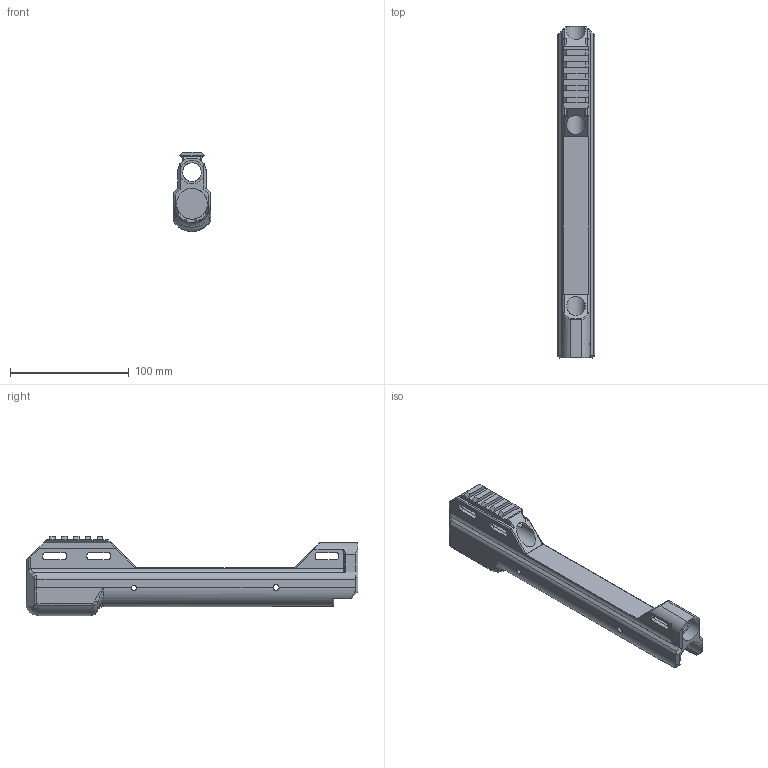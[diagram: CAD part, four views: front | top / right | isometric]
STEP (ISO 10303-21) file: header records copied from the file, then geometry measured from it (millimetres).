
FILE_DESCRIPTION(/* description */ ('Unknown'),/* implementation_level */ '2;1');
FILE_NAME(/* name */ 'Łoże Sport',/* time_stamp */ '2025-07-28T14:03:10+02:00',/* author */ ('Unknown'),/* organization */ ('Unknown'),/* preprocessor_version */ 'ST-DEVELOPER v16.7',/* originating_system */ 'DEX',/* authorisation */ $);
FILE_SCHEMA (('AUTOMOTIVE_DESIGN {1 0 10303 214 3 1 1}'));
Length unit declared in the file: millimetre
Products named in the file (1): Loze Sport
Bounding box: 32 x 280 x 66.82 mm (x, y, z)
Volume: 144304.1 mm3; surface area: 65239 mm2
Topology: 1 solids, 1 shells, 219 faces, 638 edges, 406 vertices
Faces by surface type: plane 107, cylinder 79, bspline 29, torus 4
Full cylindrical faces by diameter (mm): 4.5 x2, 5 x2, 16 x2, 20 x1, 26 x1
Entity records: 9092 total; most frequent: CARTESIAN_POINT 2050, ORIENTED_EDGE 1216, DIRECTION 1056, EDGE_CURVE 608, VERTEX_POINT 394, AXIS2_PLACEMENT_3D 358, LINE 340, VECTOR 340
